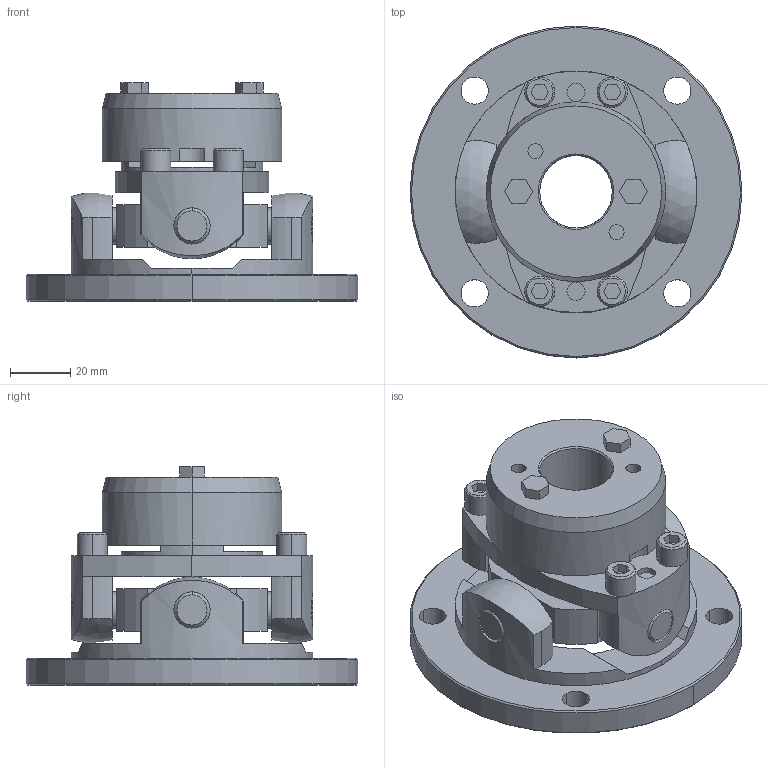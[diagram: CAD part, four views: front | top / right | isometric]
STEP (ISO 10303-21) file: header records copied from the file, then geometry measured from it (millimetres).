
FILE_DESCRIPTION((''),'2;1');
FILE_NAME('UCNF-80T7-24.stp','2011-09-17T16:27:41',(''),(''),'AutoCAD STEP 2000i','AutoCAD 2000i',', , ');
FILE_SCHEMA(('CONFIG_CONTROL_DESIGN'));
Length unit declared in the file: millimetre
Products named in the file (9): UCNF-80T7-24; 忣兜1; UCN80T7-T024; UCN80T7-T022; UCN80T7-T019; UCNF-8002; UCN80T7-T017-1; UCN80T7-T017; UCN80-SEN
Assembly tree (8 placements, depth 2):
  UCNF-80T7-24
    忣兜1
    UCN80T7-T024
    UCN80T7-T022
    UCN80T7-T019
    UCNF-8002
    UCN80T7-T017-1
    UCN80T7-T017
    UCN80-SEN
Bounding box: 110 x 110 x 72.5 mm (x, y, z)
Volume: 202820.3 mm3; surface area: 56067.3 mm2
Topology: 1 solids, 1 shells, 272 faces, 682 edges, 444 vertices
Faces by surface type: plane 124, cylinder 106, cone 38, sphere 4
Entity records: 8835 total; most frequent: CARTESIAN_POINT 1811, DIRECTION 1534, ORIENTED_EDGE 1364, EDGE_CURVE 682, AXIS2_PLACEMENT_3D 587, VERTEX_POINT 444, VECTOR 360, LINE 360
